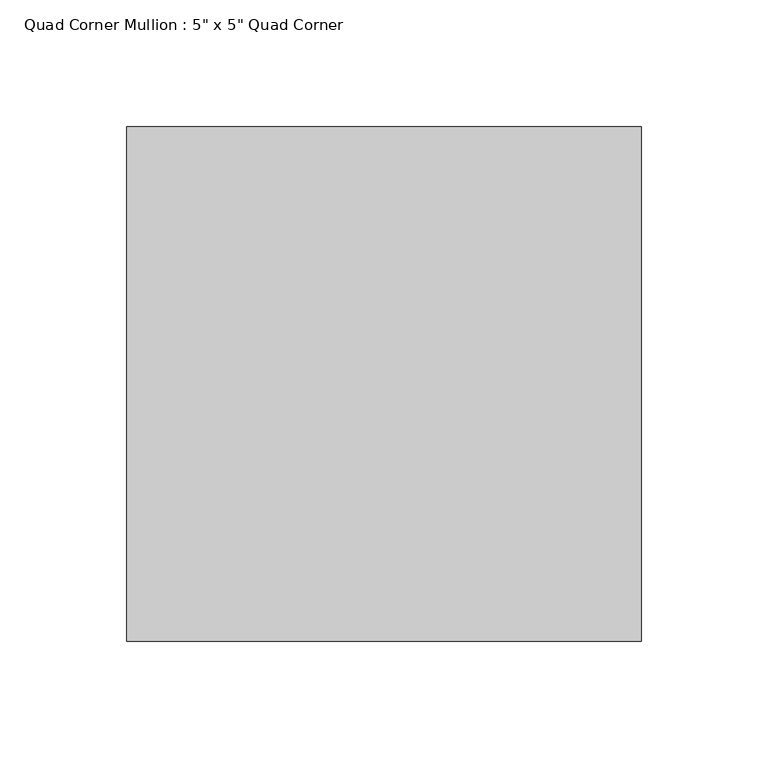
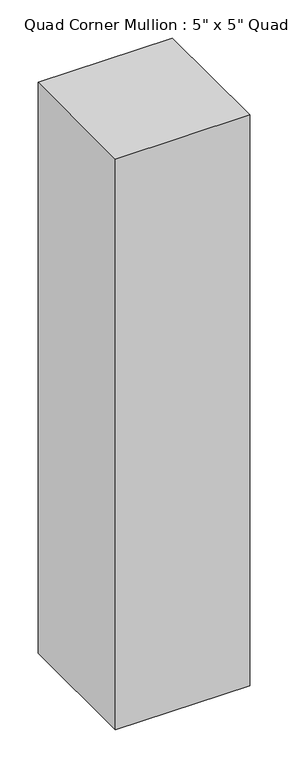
"""IFC4 building model written with IfcOpenShell, lengths in millimetres: member geometry."""

from ifc_helpers import new_model, si_unit, frame, origin, place, context, project, spatial, polyline, outline, extrude, source, transform, mapped, element, save


def member_986474d6(model_context):
    return source(origin(), model_context, "Body", "SweptSolid", [
        extrude(outline(polyline([(133.35, -69.85), (-69.85, -69.85), (-69.85, 133.35), (133.35, 133.35), (133.35, -69.85)])), frame((0.0, 0.0, -914.4), z_axis=(0.0, 0.0, 1.0), x_axis=(1.0, 0.0, 0.0)), (0.0, 0.0, 1.0), 914.4),
    ])


if __name__ == "__main__":
    model = new_model("IFC4")
    model_context = context("Model", 3, world=origin())
    ifc_project = project(units=[si_unit("LENGTHUNIT", "METRE", prefix="MILLI")], contexts=[model_context])
    site = spatial("IfcSite", under=ifc_project)
    building = spatial("IfcBuilding", under=site)
    placement = place(None, origin())
    member_shape = member_986474d6(model_context)
    element("IfcMember", 1, ObjectType="Quad Corner Mullion : 5\" x 5\" Quad Corner", at=placement, inside=building, context=model_context, shape_type="MappedRepresentation", body=[
        mapped(member_shape, transform((0.0, 0.0, 0.0), x_axis=(1.0, 0.0, 0.0), y_axis=(0.0, 1.0, 0.0), z_axis=(0.0, 0.0, 1.0))),
    ])
    save(model, "model.ifc")
